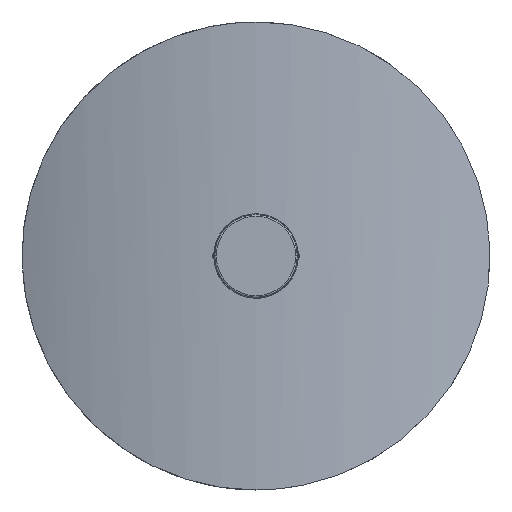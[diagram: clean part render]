
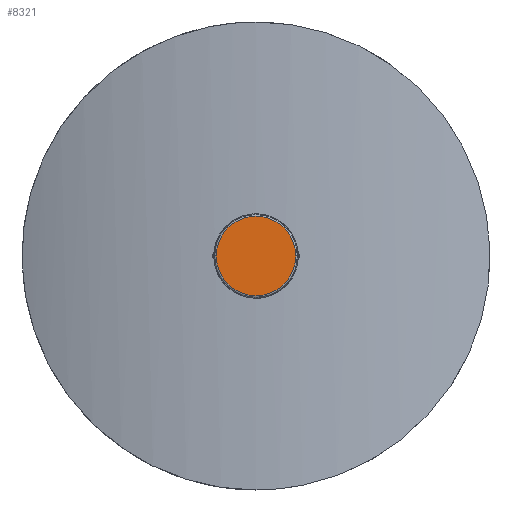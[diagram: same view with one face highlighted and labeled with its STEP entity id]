
A CAD part, top view. The second image highlights one B-rep face of the part: STEP entity #8321.
In plain terms, the highlighted planar face has unit normal (0, 0, 1).
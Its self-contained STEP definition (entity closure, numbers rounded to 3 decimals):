
#7003=CARTESIAN_POINT('',(0.,0.,48.5));
#7004=DIRECTION('',(0.,0.,1.));
#7005=DIRECTION('',(-1.,0.,0.));
#7006=AXIS2_PLACEMENT_3D('',#7003,#7004,#7005);
#7008=CARTESIAN_POINT('',(0.,0.,48.5));
#7009=DIRECTION('',(0.,0.,1.));
#7010=DIRECTION('',(1.,0.,0.));
#7011=AXIS2_PLACEMENT_3D('',#7008,#7009,#7010);
#8206=CARTESIAN_POINT('',(-68.,0.,
48.5));
#8208=VERTEX_POINT('',#8206);
#8212=CARTESIAN_POINT('',(68.,0.,48.5));
#8213=VERTEX_POINT('',#8212);
#8311=CARTESIAN_POINT('',(0.,68.,
48.5));
#8312=DIRECTION('',(0.,0.,1.));
#8313=DIRECTION('',(1.,0.,0.));
#8314=AXIS2_PLACEMENT_3D('',#8311,#8312,#8313);
#8315=PLANE('',#8314);
#8317=ORIENTED_EDGE('',*,*,#8316,.F.);
#8318=ORIENTED_EDGE('',*,*,#8301,.F.);
#8319=EDGE_LOOP('',(#8317,#8318));
#8320=FACE_OUTER_BOUND('',#8319,.F.);
#8321=ADVANCED_FACE('',(#8320),#8315,.T.);
#7007=CIRCLE('',#7006,68.);
#7012=CIRCLE('',#7011,68.);
#8301=EDGE_CURVE('',#8213,#8208,#7012,.T.);
#8316=EDGE_CURVE('',#8208,#8213,#7007,.T.);
